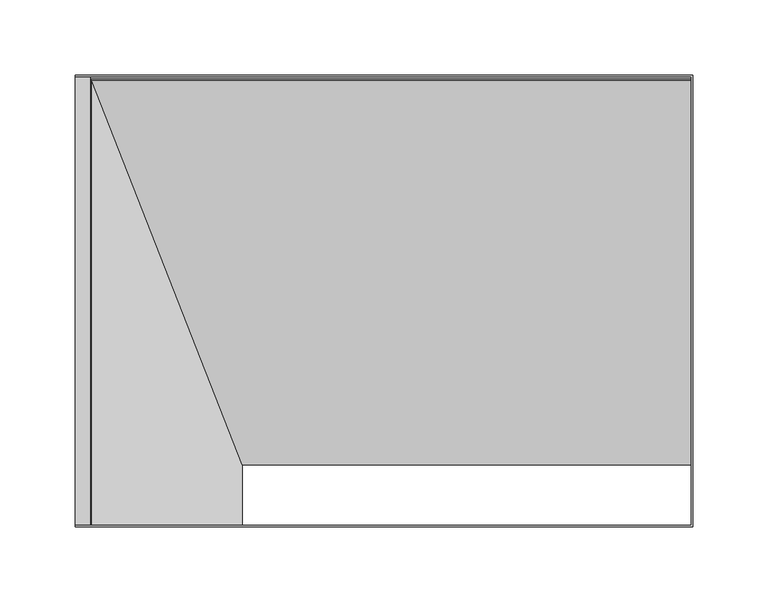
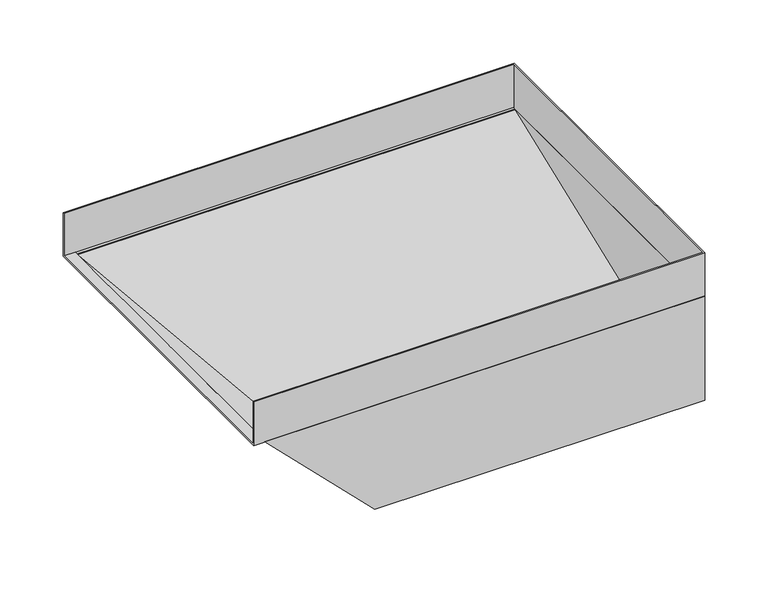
"""IFC4 building model written with IfcOpenShell, lengths in millimetres: cable carrier fitting geometry, BAKS_Vertical elbow left : KRLBJ_H42."""

import ifcopenshell
import ifcopenshell.guid

model = None  # the IFC model being written
_history = None  # IfcOwnerHistory: only IFC2X3 demands one
_inside = {}  # id of a spatial element -> (the spatial element, [elements in it])
_under = {}  # id of a project, library or spatial element -> (it, [spatial elements below it])
_declared = {}  # id of a project -> (the project, [libraries it declares])
_typed = {}  # id of a type object -> (the type object, [elements of that type])
_made_of = {}  # id of a material, layer set ... -> (it, [elements and type objects made of it])


def new_model(schema):
    """Start an empty IFC model of exactly this schema.

    Asked for "IFC4X3", IfcOpenShell would pick the latest addendum, in which some entities
    have other attributes; the version numbers below select the first issue.
    IFC2X3 requires an IfcOwnerHistory on every rooted entity: one is made here for all.
    """
    global model, _history
    if schema == "IFC4X3":
        model = ifcopenshell.file(schema_version=(4, 3, 0, 0))
    else:
        model = ifcopenshell.file(schema=schema)
    _inside.clear()
    _under.clear()
    _declared.clear()
    _typed.clear()
    _made_of.clear()
    _history = None
    if model.schema == "IFC2X3":
        org = make("IfcOrganization", Name="unknown")
        user = make(
            "IfcPersonAndOrganization",
            ThePerson=make("IfcPerson", FamilyName="unknown"),
            TheOrganization=org,
        )
        app = make(
            "IfcApplication",
            ApplicationDeveloper=org,
            Version="unknown",
            ApplicationFullName="unknown",
            ApplicationIdentifier="unknown",
        )
        _history = make(
            "IfcOwnerHistory",
            OwningUser=user,
            OwningApplication=app,
            ChangeAction="ADDED",
            CreationDate=0,
        )
    return model


def make(cls, **values):
    """One entity of the class cls with the attributes given. An attribute that is None is left unset."""
    return model.create_entity(
        cls, **{name: value for name, value in values.items() if value is not None}
    )


def rooted(cls, **values):
    """An entity with a GlobalId (a new one), such as an element, a storey or a relation."""
    return make(cls, GlobalId=ifcopenshell.guid.new(), OwnerHistory=_history, **values)


def si_unit(unit_type, name, prefix=None):
    """IfcSIUnit, for example si_unit("LENGTHUNIT", "METRE", prefix="MILLI")."""
    return make("IfcSIUnit", UnitType=unit_type, Prefix=prefix, Name=name)


def assignment(units):
    """IfcUnitAssignment: the units of a project."""
    return None if units is None else make("IfcUnitAssignment", Units=units)


def point(xyz):
    """IfcCartesianPoint."""
    return None if xyz is None else make("IfcCartesianPoint", Coordinates=xyz)


def direction(xyz):
    """IfcDirection."""
    return None if xyz is None else make("IfcDirection", DirectionRatios=xyz)


def frame(location, z_axis=None, x_axis=None):
    """IfcAxis2Placement3D, a coordinate frame: its origin and axes. An axis left out is left unset."""
    return make(
        "IfcAxis2Placement3D",
        Location=point(location),
        Axis=direction(z_axis),
        RefDirection=direction(x_axis),
    )


def origin():
    """The frame at (0, 0, 0) with its axes left unset."""
    return frame((0.0, 0.0, 0.0))


def place(relative_to, where):
    """IfcLocalPlacement: puts the frame where relative to a parent placement (None: the world)."""
    return make(
        "IfcLocalPlacement", PlacementRelTo=relative_to, RelativePlacement=where
    )


def context(
    kind, dimensions, precision=None, world=None, true_north=None, identifier=None
):
    """IfcGeometricRepresentationContext, for example the 3D "Model" context."""
    return make(
        "IfcGeometricRepresentationContext",
        ContextIdentifier=identifier,
        ContextType=kind,
        CoordinateSpaceDimension=dimensions,
        Precision=precision,
        WorldCoordinateSystem=world,
        TrueNorth=true_north,
    )


def project(units=None, contexts=None):
    """IfcProject with its units and contexts."""
    return rooted(
        "IfcProject",
        Name="project",
        RepresentationContexts=contexts,
        UnitsInContext=assignment(units),
    )


def spatial(cls, under=None, at=None, **own):
    """A site, building, storey or space (cls), placed at a placement, below another one or the project."""
    s = rooted(cls, ObjectPlacement=at, **own)
    if under is not None:
        _under.setdefault(under.id(), (under, []))[1].append(s)
    return s


def faces_of(points, faces, orient=None, outer=None):
    """IfcFace entities. A face is a list of loops; a loop is a list of indices into points, from 0.

    orient and outer hold one flag for each loop. By default every Orientation is true, the
    first loop of a face is its IfcFaceOuterBound and the others are IfcFaceBound.
    """
    made = []
    for i, loops in enumerate(faces):
        bounds = []
        for j, loop in enumerate(loops):
            is_outer = j == 0 if outer is None else outer[i][j]
            bounds.append(
                make(
                    "IfcFaceOuterBound" if is_outer else "IfcFaceBound",
                    Bound=make("IfcPolyLoop", Polygon=[points[k] for k in loop]),
                    Orientation=True if orient is None else orient[i][j],
                )
            )
        made.append(make("IfcFace", Bounds=bounds))
    return made


def faceted_brep(points, faces, orient=None, outer=None, voids=None):
    """IfcFacetedBrep: a solid bounded by flat faces; with voids (closed shells), ...WithVoids."""
    shared = [point(p) for p in points]
    hull = make("IfcClosedShell", CfsFaces=faces_of(shared, faces, orient, outer))
    if voids is None:
        return make("IfcFacetedBrep", Outer=hull)
    return make(
        "IfcFacetedBrepWithVoids",
        Outer=hull,
        Voids=[
            make(cls, CfsFaces=faces_of(shared, fs, o, b)) for cls, fs, o, b in voids
        ],
    )


def shape(context_of_items, identifier, shape_type, items):
    """IfcShapeRepresentation: the items that make up one representation, for example the "Body"."""
    return make(
        "IfcShapeRepresentation",
        ContextOfItems=context_of_items,
        RepresentationIdentifier=identifier,
        RepresentationType=shape_type,
        Items=items,
    )


def source(mapping_origin, context_of_items, identifier, shape_type, items):
    """IfcRepresentationMap: a shape defined once, which mapped items show again and again."""
    return make(
        "IfcRepresentationMap",
        MappingOrigin=mapping_origin,
        MappedRepresentation=shape(context_of_items, identifier, shape_type, items),
    )


def transform(
    local_origin,
    x_axis=None,
    y_axis=None,
    z_axis=None,
    scale=None,
    scale2=None,
    scale3=None,
    uniform=True,
):
    """IfcCartesianTransformationOperator3D, or its non-uniform kind. x_axis, y_axis, z_axis: its Axis1, 2, 3."""
    if uniform:
        return make(
            "IfcCartesianTransformationOperator3D",
            Axis1=direction(x_axis),
            Axis2=direction(y_axis),
            LocalOrigin=point(local_origin),
            Scale=scale,
            Axis3=direction(z_axis),
        )
    return make(
        "IfcCartesianTransformationOperator3DnonUniform",
        Axis1=direction(x_axis),
        Axis2=direction(y_axis),
        LocalOrigin=point(local_origin),
        Scale=scale,
        Axis3=direction(z_axis),
        Scale2=scale2,
        Scale3=scale3,
    )


def mapped(mapping_source, mapping_target):
    """IfcMappedItem: shows the shape of a source again, moved by a transform."""
    return make(
        "IfcMappedItem", MappingSource=mapping_source, MappingTarget=mapping_target
    )


def made_of(thing, what):
    """Note that an element or type object is made of a material, layer set ...; save() writes the relation."""
    if what is not None:
        _made_of.setdefault(what.id(), (what, []))[1].append(thing)
    return thing


def element(
    cls,
    number,
    at=None,
    inside=None,
    cuts=None,
    type_object=None,
    material=None,
    context=None,
    identifier="Body",
    shape_type=None,
    held_by="IfcProductDefinitionShape",
    body=None,
    shapes=None,
    **own,
):
    """One element of the class cls, such as IfcWall. Its Tag is "e" and its number.

    at: its placement. inside: the storey or other place that contains it. cuts: it is an
    opening in that element (IfcRelVoidsElement). A single representation is given by context,
    identifier, shape_type and body (its items); several are given by shapes. held_by: the class
    of the entity that holds the representations. save() writes the other relations.
    """
    e = rooted(cls, Tag="e%d" % number, ObjectPlacement=at, **own)
    if body is not None:
        shapes = [shape(context, identifier, shape_type, body)]
    if shapes is not None:
        e.Representation = make(held_by, Representations=shapes)
    if inside is not None:
        _inside.setdefault(inside.id(), (inside, []))[1].append(e)
    if cuts is not None:
        rooted(
            "IfcRelVoidsElement", RelatingBuildingElement=cuts, RelatedOpeningElement=e
        )
    if type_object is not None:
        _typed.setdefault(type_object.id(), (type_object, []))[1].append(e)
    return made_of(e, material)


def aggregate(whole, parts):
    """IfcRelAggregates: a whole, such as a stair, and the parts it consists of."""
    return rooted("IfcRelAggregates", RelatingObject=whole, RelatedObjects=parts)


def save(model, path):
    """Write the relations noted so far, then the file.

    IfcRelAggregates (storeys below a building ...), IfcRelContainedInSpatialStructure (elements
    in a storey), IfcRelDefinesByType, IfcRelAssociatesMaterial and IfcRelDeclares: one each for
    every whole, place, type object, material and project.
    """
    for whole, parts in _under.values():
        aggregate(whole, parts)
    for where, things in _inside.values():
        rooted(
            "IfcRelContainedInSpatialStructure",
            RelatedElements=things,
            RelatingStructure=where,
        )
    for kind, things in _typed.values():
        rooted("IfcRelDefinesByType", RelatedObjects=things, RelatingType=kind)
    for what, things in _made_of.values():
        rooted("IfcRelAssociatesMaterial", RelatedObjects=things, RelatingMaterial=what)
    for by, libraries in _declared.values():
        rooted("IfcRelDeclares", RelatingContext=by, RelatedDefinitions=libraries)
    model.write(path)


def cable_carrier_fitting_400b97e6(model_context):
    return source(origin(), model_context, "Body", "Brep", [
        faceted_brep([(410.0, 150.0, -21.0), (10.0, 150.0, -21.0), (10.0, -150.0, -21.0), (410.0, -150.0, -21.0), (11.01, 146.42, -21.0), (409.0, 146.42, -21.0), (409.0, -149.0, -21.0), (11.01, -149.0, -21.0), (410.0, -108.0, -121.0), (410.0, -150.0, -121.0), (110.0, -150.0, -121.0), (110.0, -108.0, -121.0), (409.0, -109.0, -121.0), (111.0, -109.0, -121.0), (111.0, -149.0, -121.0), (409.0, -149.0, -121.0), (111.0, -109.0, -120.0), (409.0, -109.0, -120.0), (111.0, -149.0, -120.0)], [[[0, 1, 2, 3], [4, 5, 6, 7]], [[8, 9, 10, 11], [12, 13, 14, 15]], [[1, 0, 8, 11]], [[2, 1, 11, 10]], [[3, 2, 10, 9]], [[0, 3, 9, 8]], [[16, 13, 12, 17]], [[13, 16, 18, 14]], [[14, 18, 7, 6, 15]], [[17, 12, 15, 6, 5]], [[17, 5, 4, 16]], [[16, 4, 7, 18]]]),
        faceted_brep([(410.0, 150.0, 21.0), (0.0, 150.0, 21.0), (0.0, 149.0, 21.0), (409.0, 149.0, 21.0), (409.0, -149.0, 21.0), (0.0, -149.0, 21.0), (0.0, -150.0, 21.0), (410.0, -150.0, 21.0), (410.0, 150.0, -21.0), (410.0, -150.0, -21.0), (0.0, -150.0, -21.0), (0.0, 150.0, -21.0), (409.0, 146.42, -21.0), (11.01, 146.42, -21.0), (11.01, -149.0, -21.0), (409.0, -149.0, -21.0), (0.0, -149.0, -20.0), (0.0, 149.0, -20.0), (10.0, -149.0, -20.0), (10.0, 149.0, -20.0), (409.0, 149.0, -20.0)], [[[0, 1, 2, 3, 4, 5, 6, 7]], [[8, 9, 10, 11], [12, 13, 14, 15]], [[1, 0, 8, 11]], [[11, 10, 6, 5, 16, 17, 2, 1]], [[7, 6, 10, 9]], [[0, 7, 9, 8]], [[17, 16, 18, 19]], [[20, 3, 2, 17, 19]], [[15, 14, 18, 16, 5, 4]], [[3, 20, 12, 15, 4]], [[12, 20, 19, 13]], [[13, 19, 18, 14]]]),
    ])


if __name__ == "__main__":
    model = new_model("IFC4")
    model_context = context("Model", 3, world=origin())
    ifc_project = project(units=[si_unit("LENGTHUNIT", "METRE", prefix="MILLI")], contexts=[model_context])
    site = spatial("IfcSite", under=ifc_project)
    building = spatial("IfcBuilding", under=site)
    placement = place(None, origin())
    cable_carrier_fitting_shape = cable_carrier_fitting_400b97e6(model_context)
    element("IfcCableCarrierFitting", 1, ObjectType="BAKS_Vertical elbow left : KRLBJ_H42", at=placement, inside=building, context=model_context, shape_type="MappedRepresentation", body=[
        mapped(cable_carrier_fitting_shape, transform((0.0, 0.0, 0.0), x_axis=(1.0, 0.0, 0.0), y_axis=(0.0, 1.0, 0.0), z_axis=(0.0, 0.0, 1.0))),
    ])
    save(model, "model.ifc")
